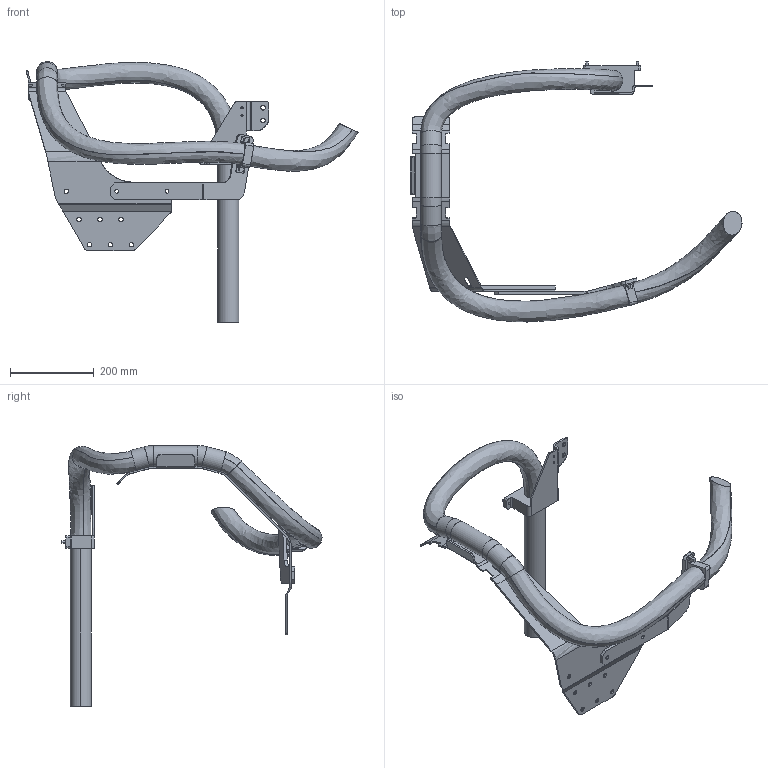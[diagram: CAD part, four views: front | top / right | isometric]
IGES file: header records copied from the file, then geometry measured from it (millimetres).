
Start section: SolidWorks IGES file using analytic representation for surfaces
Global section: file name: C:\Data\SAP_DOC\IRB6740_lightweight\6740\IRB6740-LID-MH_220kg-320_OC_01_SW_J\IRB6740-LID-MH_220kg-320_OC_01_IGES_J\IRB6740-LID-MH_220kg-320_OC_00_LINK01_CABLE.igs; native system: SolidWorks 2024; preprocessor: SolidWorks 2024; author: SEJAOLS6; date: 260513.070622; units: millimetre
Bounding box: 790.95 x 619.61 x 621.56 mm (x, y, z)
Surface area: 620350.1 mm2 (no closed solid volume)
Topology: 0 solids, 0 shells, 313 faces, 4382 edges, 4382 vertices
Faces by surface type: bspline 176, revolution 137
